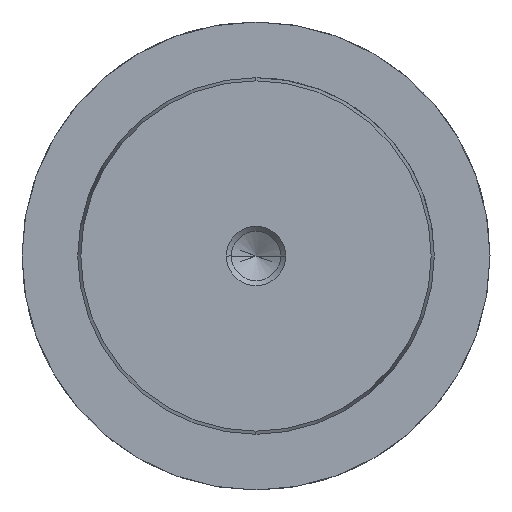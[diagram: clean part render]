
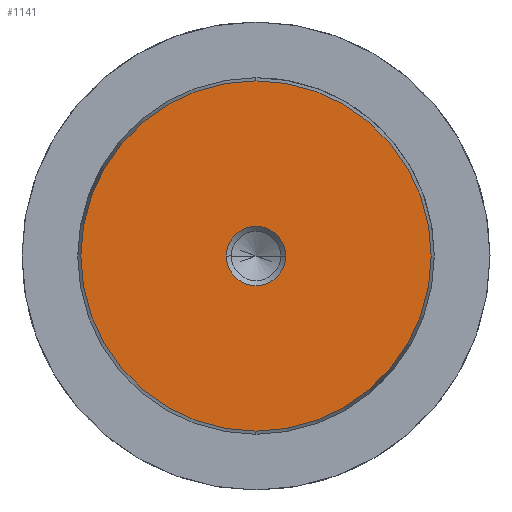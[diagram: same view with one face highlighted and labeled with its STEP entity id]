
A CAD part, left-side view. The second image highlights one B-rep face of the part: STEP entity #1141.
In plain terms, the highlighted planar face has unit normal (-1, 0, 0).
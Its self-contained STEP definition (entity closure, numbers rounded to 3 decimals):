
#1055=CARTESIAN_POINT('Vertex',(0.,0.,-23.578)) ;
#1058=CARTESIAN_POINT('Axis2P3D Location',(0.,0.,0.)) ;
#1062=CARTESIAN_POINT('Vertex',(0.,23.578,0.)) ;
#1065=CARTESIAN_POINT('Axis2P3D Location',(0.,0.,0.)) ;
#1069=CARTESIAN_POINT('Vertex',(0.,0.,23.578)) ;
#1091=CARTESIAN_POINT('Axis2P3D Location',(0.,0.,0.)) ;
#1095=CARTESIAN_POINT('Vertex',(0.,-23.578,0.)) ;
#1098=CARTESIAN_POINT('Axis2P3D Location',(0.,0.,0.)) ;
#1112=CARTESIAN_POINT('Axis2P3D Location',(0.,0.,0.)) ;
#1123=CARTESIAN_POINT('Axis2P3D Location',(0.,0.,0.)) ;
#1127=CARTESIAN_POINT('Vertex',(0.,4.,0.)) ;
#1129=CARTESIAN_POINT('Vertex',(0.,-4.,0.)) ;
#1132=CARTESIAN_POINT('Axis2P3D Location',(0.,0.,0.)) ;
#1059=DIRECTION('Axis2P3D Direction',(1.,-0.,0.)) ;
#1066=DIRECTION('Axis2P3D Direction',(1.,-0.,0.)) ;
#1092=DIRECTION('Axis2P3D Direction',(1.,0.,-0.)) ;
#1099=DIRECTION('Axis2P3D Direction',(1.,0.,-0.)) ;
#1113=DIRECTION('Axis2P3D Direction',(1.,0.,-0.)) ;
#1114=DIRECTION('Axis2P3D XDirection',(-0.,0.,-1.)) ;
#1124=DIRECTION('Axis2P3D Direction',(1.,0.,-0.)) ;
#1133=DIRECTION('Axis2P3D Direction',(1.,0.,-0.)) ;
#1060=AXIS2_PLACEMENT_3D('Circle Axis2P3D',#1058,#1059,$) ;
#1067=AXIS2_PLACEMENT_3D('Circle Axis2P3D',#1065,#1066,$) ;
#1093=AXIS2_PLACEMENT_3D('Circle Axis2P3D',#1091,#1092,$) ;
#1100=AXIS2_PLACEMENT_3D('Circle Axis2P3D',#1098,#1099,$) ;
#1115=AXIS2_PLACEMENT_3D('Plane Axis2P3D',#1112,#1113,#1114) ;
#1125=AXIS2_PLACEMENT_3D('Circle Axis2P3D',#1123,#1124,$) ;
#1134=AXIS2_PLACEMENT_3D('Circle Axis2P3D',#1132,#1133,$) ;
#1118=ORIENTED_EDGE('',*,*,#1064,.F.) ;
#1119=ORIENTED_EDGE('',*,*,#1102,.F.) ;
#1120=ORIENTED_EDGE('',*,*,#1097,.F.) ;
#1121=ORIENTED_EDGE('',*,*,#1071,.F.) ;
#1138=ORIENTED_EDGE('',*,*,#1131,.T.) ;
#1139=ORIENTED_EDGE('',*,*,#1136,.T.) ;
#1140=FACE_BOUND('',#1137,.T.) ;
#1141=ADVANCED_FACE('719-48x250',(#1122,#1140),#1116,.F.) ;
#1061=CIRCLE('generated circle',#1060,23.578) ;
#1068=CIRCLE('generated circle',#1067,23.578) ;
#1094=CIRCLE('generated circle',#1093,23.578) ;
#1101=CIRCLE('generated circle',#1100,23.578) ;
#1126=CIRCLE('generated circle',#1125,4.) ;
#1135=CIRCLE('generated circle',#1134,4.) ;
#1064=EDGE_CURVE('',#1056,#1063,#1061,.T.) ;
#1071=EDGE_CURVE('',#1063,#1070,#1068,.T.) ;
#1097=EDGE_CURVE('',#1070,#1096,#1094,.T.) ;
#1102=EDGE_CURVE('',#1096,#1056,#1101,.T.) ;
#1131=EDGE_CURVE('',#1128,#1130,#1126,.T.) ;
#1136=EDGE_CURVE('',#1130,#1128,#1135,.T.) ;
#1117=EDGE_LOOP('',(#1118,#1119,#1120,#1121)) ;
#1137=EDGE_LOOP('',(#1138,#1139)) ;
#1122=FACE_OUTER_BOUND('',#1117,.T.) ;
#1116=PLANE('Plane',#1115) ;
#1056=VERTEX_POINT('',#1055) ;
#1063=VERTEX_POINT('',#1062) ;
#1070=VERTEX_POINT('',#1069) ;
#1096=VERTEX_POINT('',#1095) ;
#1128=VERTEX_POINT('',#1127) ;
#1130=VERTEX_POINT('',#1129) ;
